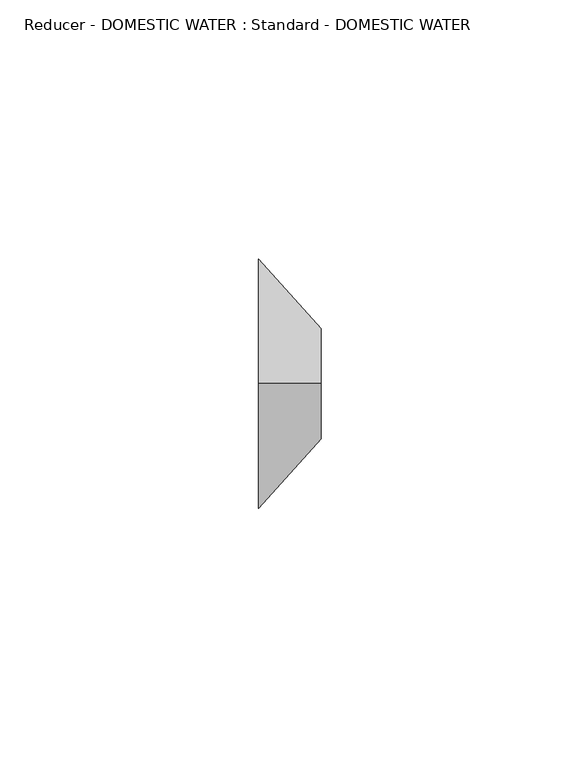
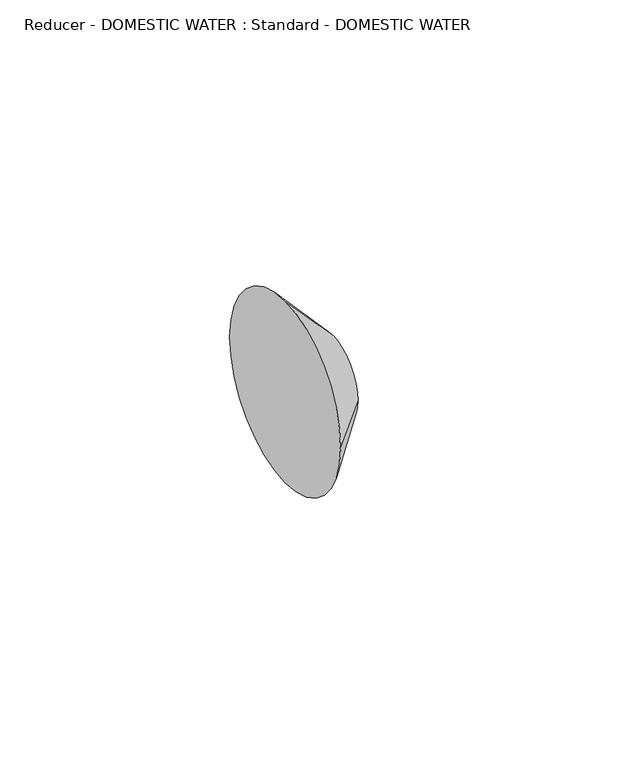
"""IFC4 building model written with IfcOpenShell, lengths in millimetres: pipe fitting geometry, Reducer - DOMESTIC WATER : Standard - DOMESTIC WATER."""

from ifc_helpers import new_model, si_unit, frame, origin, place, context, project, spatial, polyline, circle_curve, source, transform, mapped, element, save
from ifc_brep_helpers import plane_surface, revolved_surface, advanced_brep


def reducer_domestic_water_standard_domestic_water_905ef0e7(model_context):
    return source(origin(), model_context, "Body", "AdvancedBrep", [
        advanced_brep(
        [(12.065, 0.0, 10.668), (12.065, -10.668, 0.0), (12.065, 0.0, -10.668), (12.065, 10.668, 0.0), (0.0, 0.0, 24.13), (0.0, 24.13, 0.0), (0.0, 0.0, -24.13), (0.0, -24.13, 0.0)],
        [
            (0, 1, circle_curve(frame((12.065, 0.0, 0.0), z_axis=(1.0, 0.0, 0.0), x_axis=(0.0, 0.0, 1.0)), 10.668)),
            (1, 2, circle_curve(frame((12.065, 0.0, 0.0), z_axis=(1.0, 0.0, 0.0), x_axis=(0.0, -1.0, 0.0)), 10.668)),
            (2, 3, circle_curve(frame((12.065, 0.0, 0.0), z_axis=(1.0, 0.0, 0.0), x_axis=(0.0, 0.0, -1.0)), 10.668)),
            (3, 0, circle_curve(frame((12.065, 0.0, 0.0), z_axis=(1.0, 0.0, 0.0), x_axis=(0.0, 1.0, 0.0)), 10.668)),
            (4, 5, circle_curve(frame((0.0, 0.0, 0.0), z_axis=(-1.0, 0.0, 0.0), x_axis=(0.0, 1.0, 0.0)), 24.13)),
            (5, 6, circle_curve(frame((0.0, 0.0, 0.0), z_axis=(-1.0, 0.0, 0.0), x_axis=(0.0, 0.0, -1.0)), 24.13)),
            (6, 7, circle_curve(frame((0.0, 0.0, 0.0), z_axis=(-1.0, 0.0, 0.0), x_axis=(0.0, -1.0, 0.0)), 24.13)),
            (7, 4, circle_curve(frame((0.0, 0.0, 0.0), z_axis=(-1.0, 0.0, 0.0), x_axis=(0.0, 0.0, 1.0)), 24.13)),
            (7, 1),
            (0, 4),
            (6, 2),
            (5, 3),
        ],
        [
            plane_surface(frame((12.065, 0.0, 0.0), z_axis=(1.0, 0.0, 0.0), x_axis=(0.0, -1.0, 0.0))),
            plane_surface(frame((0.0, 0.0, 0.0), z_axis=(-1.0, 0.0, 0.0), x_axis=(0.0, -1.0, 0.0))),
            revolved_surface(polyline([(12.065, 0.0, 10.66800000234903), (0.0, 0.0, 24.13)]), (21.6259434, 0.0, 0.0), (-1.0, 0.0, 0.0)),
            revolved_surface(polyline([(12.065, -10.66800000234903, 0.0), (0.0, -24.13, 0.0)]), (21.6259434, 0.0, 0.0), (-1.0, 0.0, 0.0)),
            revolved_surface(polyline([(12.065, 0.0, -10.66800000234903), (0.0, 0.0, -24.13)]), (21.6259434, 0.0, 0.0), (-1.0, 0.0, 0.0)),
            revolved_surface(polyline([(12.065, 10.66800000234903, 0.0), (0.0, 24.13, 0.0)]), (21.6259434, 0.0, 0.0), (-1.0, 0.0, 0.0)),
        ],
        [
            (0, [[1, 2, 3, 4]]),
            (1, [[5, 6, 7, 8]]),
            (2, [[-8, 9, -1, 10]]),
            (3, [[-7, 11, -2, -9]]),
            (4, [[-6, 12, -3, -11]]),
            (5, [[-5, -10, -4, -12]]),
        ],
    ),
        advanced_brep(
        [(12.065, 0.0, 10.668), (12.065, -10.668, 0.0), (12.065, 0.0, -10.668), (12.065, 10.668, 0.0), (0.0, 0.0, 24.13), (0.0, 24.13, 0.0), (0.0, 0.0, -24.13), (0.0, -24.13, 0.0)],
        [
            (0, 1, circle_curve(frame((12.065, 0.0, 0.0), z_axis=(1.0, 0.0, 0.0), x_axis=(0.0, 0.0, 1.0)), 10.668)),
            (1, 2, circle_curve(frame((12.065, 0.0, 0.0), z_axis=(1.0, 0.0, 0.0), x_axis=(0.0, -1.0, 0.0)), 10.668)),
            (2, 3, circle_curve(frame((12.065, 0.0, 0.0), z_axis=(1.0, 0.0, -1.039076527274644e-12), x_axis=(-1.0391244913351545e-12, 0.0, -1.0)), 10.668)),
            (3, 0, circle_curve(frame((12.065, 0.0, 0.0), z_axis=(1.0, 0.0, 0.0), x_axis=(0.0, 1.0, 0.0)), 10.668)),
            (4, 5, circle_curve(frame((0.0, 0.0, 0.0), z_axis=(-1.0, 0.0, 0.0), x_axis=(0.0, 1.0, 0.0)), 24.13)),
            (5, 6, circle_curve(frame((0.0, 0.0, 0.0), z_axis=(-1.0, 0.0, 1.039076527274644e-12), x_axis=(-1.0391244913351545e-12, 0.0, -1.0)), 24.13)),
            (6, 7, circle_curve(frame((0.0, 0.0, 0.0), z_axis=(-1.0, 0.0, 0.0), x_axis=(0.0, -1.0, 0.0)), 24.13)),
            (7, 4, circle_curve(frame((0.0, 0.0, 0.0), z_axis=(-1.0, 0.0, 0.0), x_axis=(0.0, 0.0, 1.0)), 24.13)),
            (7, 1),
            (0, 4),
            (6, 2),
            (5, 3),
        ],
        [
            plane_surface(frame((12.065, 0.0, 0.0), z_axis=(1.0, 0.0, 0.0), x_axis=(0.0, -1.0, 0.0))),
            plane_surface(frame((0.0, 0.0, 0.0), z_axis=(-1.0, 0.0, 0.0), x_axis=(0.0, -1.0, 0.0))),
            revolved_surface(polyline([(12.065, 0.0, 10.66800000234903), (0.0, 0.0, 24.13)]), (21.6259434, 0.0, 0.0), (-1.0, 0.0, 0.0)),
            revolved_surface(polyline([(12.065, -10.66800000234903, 0.0), (0.0, -24.13, 0.0)]), (21.6259434, 0.0, 0.0), (-1.0, 0.0, 0.0)),
            revolved_surface(polyline([(12.065, 0.0, -10.66800000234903), (-2.5071500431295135e-11, 0.0, -24.130000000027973)]), (21.6259434, 0.0, 0.0), (-1.0, 0.0, 1.039076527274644e-12)),
            revolved_surface(polyline([(12.065, 10.66800000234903, 0.0), (0.0, 24.13, 0.0)]), (21.6259434, 0.0, 0.0), (-1.0, 0.0, 0.0)),
        ],
        [
            (0, [[1, 2, 3, 4]]),
            (1, [[5, 6, 7, 8]]),
            (2, [[-8, 9, -1, 10]]),
            (3, [[-7, 11, -2, -9]]),
            (4, [[-6, 12, -3, -11]]),
            (5, [[-5, -10, -4, -12]]),
        ],
    ),
    ])


if __name__ == "__main__":
    model = new_model("IFC4")
    model_context = context("Model", 3, world=origin())
    ifc_project = project(units=[si_unit("LENGTHUNIT", "METRE", prefix="MILLI")], contexts=[model_context])
    site = spatial("IfcSite", under=ifc_project)
    building = spatial("IfcBuilding", under=site)
    placement = place(None, origin())
    reducer_domestic_water_standard_domestic_water_shape = reducer_domestic_water_standard_domestic_water_905ef0e7(model_context)
    element("IfcPipeFitting", 1, ObjectType="Reducer - DOMESTIC WATER : Standard - DOMESTIC WATER", at=placement, inside=building, context=model_context, shape_type="MappedRepresentation", body=[
        mapped(reducer_domestic_water_standard_domestic_water_shape, transform((0.0, 0.0, 0.0), x_axis=(1.0, 0.0, 0.0), y_axis=(0.0, 1.0, 0.0), z_axis=(0.0, 0.0, 1.0))),
    ])
    save(model, "model.ifc")
